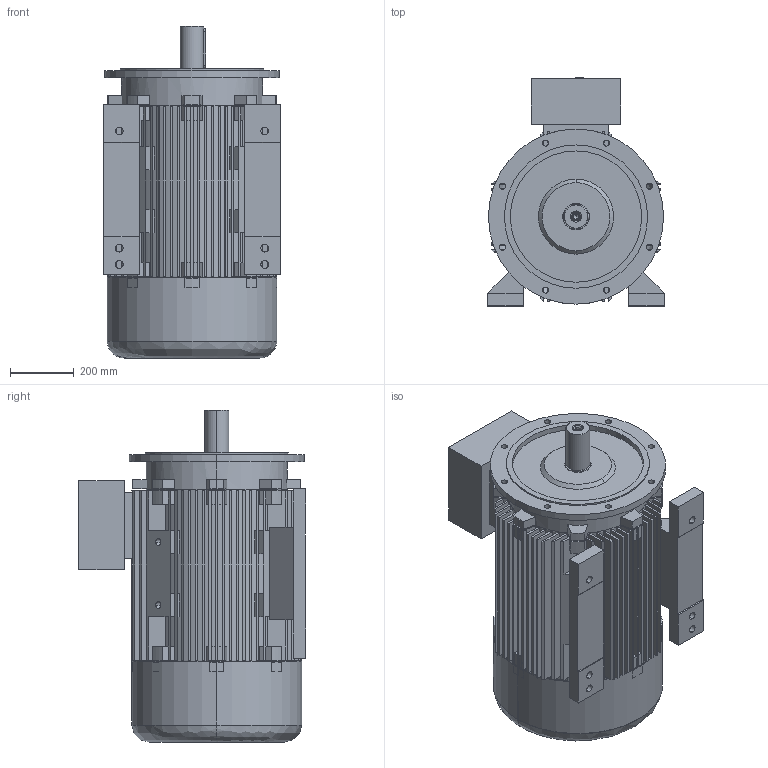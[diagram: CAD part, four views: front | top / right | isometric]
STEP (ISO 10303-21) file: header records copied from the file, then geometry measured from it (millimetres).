
FILE_DESCRIPTION (( 'STEP AP203' ), '1' );
FILE_NAME ('20.17512_C 7AT 280S&M -4, -6, -8 B35 Exde STANDK.STEP', '2018-05-21T07:39:51', ( '' ), ( '' ), 'SwSTEP 2.0', 'SolidWorks 2017', '' );
FILE_SCHEMA (( 'CONFIG_CONTROL_DESIGN' ));
Length unit declared in the file: millimetre
Products named in the file (1): 20.17512_C 7AT 280S&M -4, -6, -8 B35 Exde STANDK
Bounding box: 555 x 716 x 1043 mm (x, y, z)
Volume: 71286144.7 mm3; surface area: 8650474.7 mm2
Topology: 9 solids, 9 shells, 953 faces, 2591 edges, 1709 vertices
Faces by surface type: plane 736, cylinder 170, cone 34, bspline 13
Entity records: 30727 total; most frequent: CARTESIAN_POINT 6113, ORIENTED_EDGE 5146, DIRECTION 5055, EDGE_CURVE 2573, VECTOR 1889, LINE 1889, VERTEX_POINT 1709, AXIS2_PLACEMENT_3D 1583
